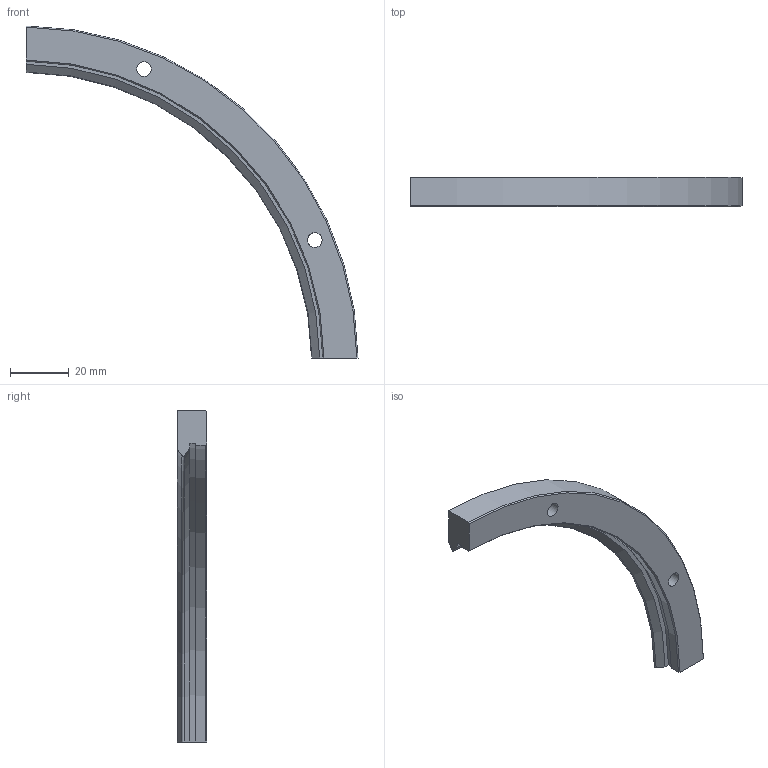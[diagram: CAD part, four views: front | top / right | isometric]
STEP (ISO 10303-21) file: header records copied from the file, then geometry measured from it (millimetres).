
FILE_DESCRIPTION(('STEP AP203'),'1');
FILE_NAME('RIV 228 R190.stp','2022-07-19T05:00:43',(' '),(' '),'Spatial InterOp 3D',' ',' ');
FILE_SCHEMA(('CONFIG_CONTROL_DESIGN'));
Length unit declared in the file: millimetre
Products named in the file (1): RIV 228 R190
Bounding box: 113.1 x 10 x 113.1 mm (x, y, z)
Volume: 21007.6 mm3; surface area: 8835 mm2
Topology: 1 solids, 1 shells, 20 faces, 50 edges, 34 vertices
Faces by surface type: plane 8, cylinder 7, cone 4, torus 1
Full cylindrical faces by diameter (mm): 5 x2, 8 x2
Entity records: 662 total; most frequent: CARTESIAN_POINT 137, DIRECTION 96, ORIENTED_EDGE 88, EDGE_CURVE 44, AXIS2_PLACEMENT_3D 41, VERTEX_POINT 32, EDGE_LOOP 30, FACE_OUTER_BOUND 24
